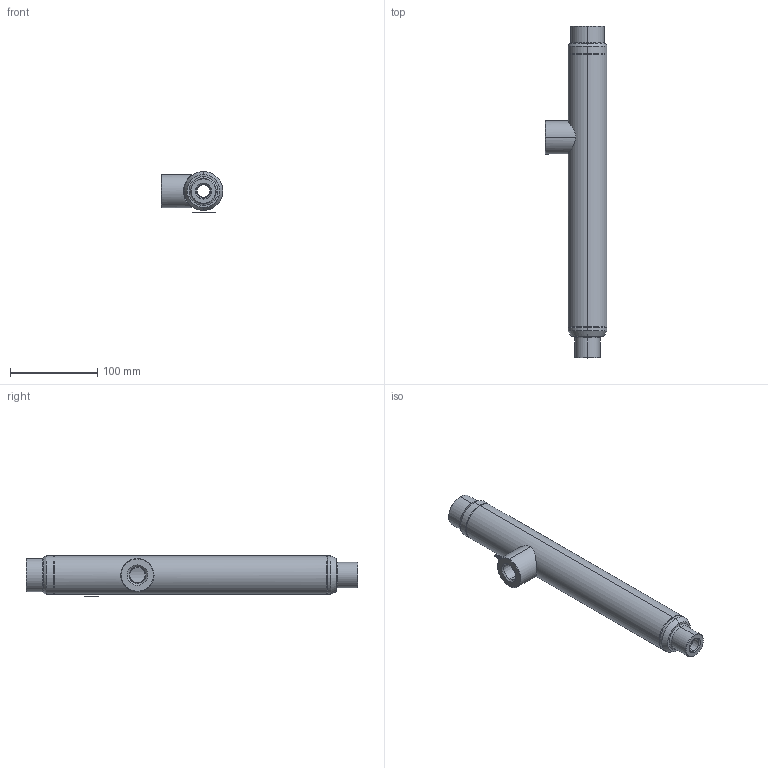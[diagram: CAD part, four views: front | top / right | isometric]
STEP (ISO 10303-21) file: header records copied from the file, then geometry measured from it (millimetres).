
FILE_DESCRIPTION (( 'STEP AP203' ), '1' );
FILE_NAME ('FAPP-T04-DUP01533_2022FEB16_0.STEP', '2022-02-16T15:43:21', ( '' ), ( '' ), 'SwSTEP 2.0', 'SolidWorks 2020', '' );
FILE_SCHEMA (( 'CONFIG_CONTROL_DESIGN' ));
Length unit declared in the file: millimetre
Products named in the file (1): FAPP-T04-DUP01533_2022FEB16_0
Bounding box: 70.72 x 380 x 46.56 mm (x, y, z)
Surface area: 63229.7 mm2 (no closed solid volume)
Topology: 0 solids, 14 shells, 79 faces, 824 edges, 763 vertices
Faces by surface type: cone 30, plane 24, cylinder 19, torus 4, bspline 2
Entity records: 11163 total; most frequent: CARTESIAN_POINT 5774, ORIENTED_EDGE 952, EDGE_CURVE 824, DIRECTION 824, VERTEX_POINT 763, VECTOR 492, LINE 492, B_SPLINE_CURVE_WITH_KNOTS 244
